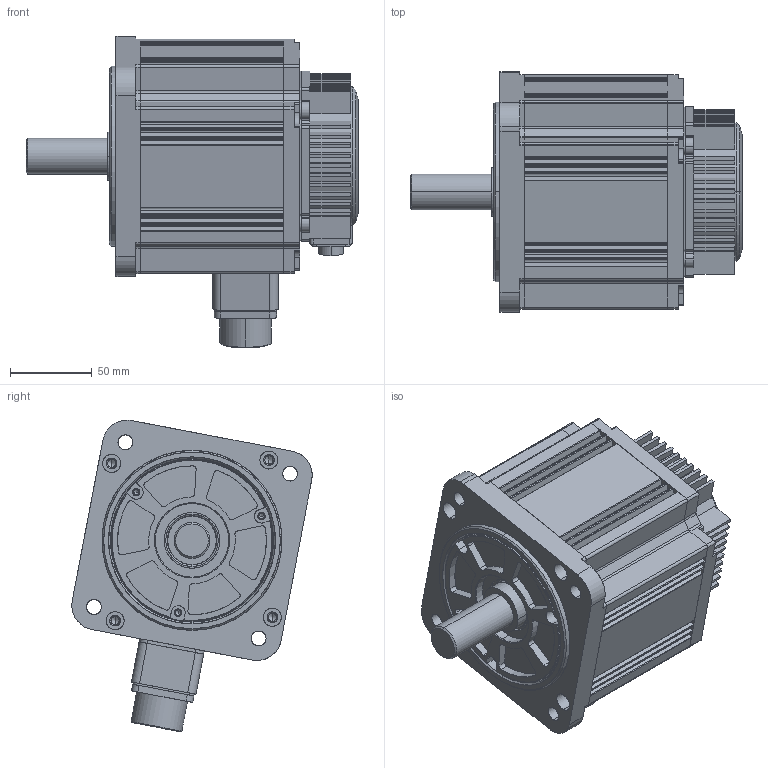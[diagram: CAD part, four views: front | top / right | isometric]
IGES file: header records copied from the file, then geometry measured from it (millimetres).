
Start section: SolidWorks IGES file using analytic representation for surfaces
Global section: file name: Z:\Products\Servo\Servo Motor\EMG-10-B22-IGS\UMM-0010EA-B2_UMM-0010CA-B2 CAD Files\UMM-0010EA-B2_UMM-0010CA-B2.IGS; native system: SolidWorks 2017; preprocessor: SolidWorks 2017; author: laorb; date: 190418.065318; units: millimetre
Bounding box: 203 x 146.96 x 190.58 mm (x, y, z)
Surface area: 324256.5 mm2 (no closed solid volume)
Topology: 0 solids, 0 shells, 1434 faces, 22186 edges, 22076 vertices
Faces by surface type: revolution 767, bspline 667
